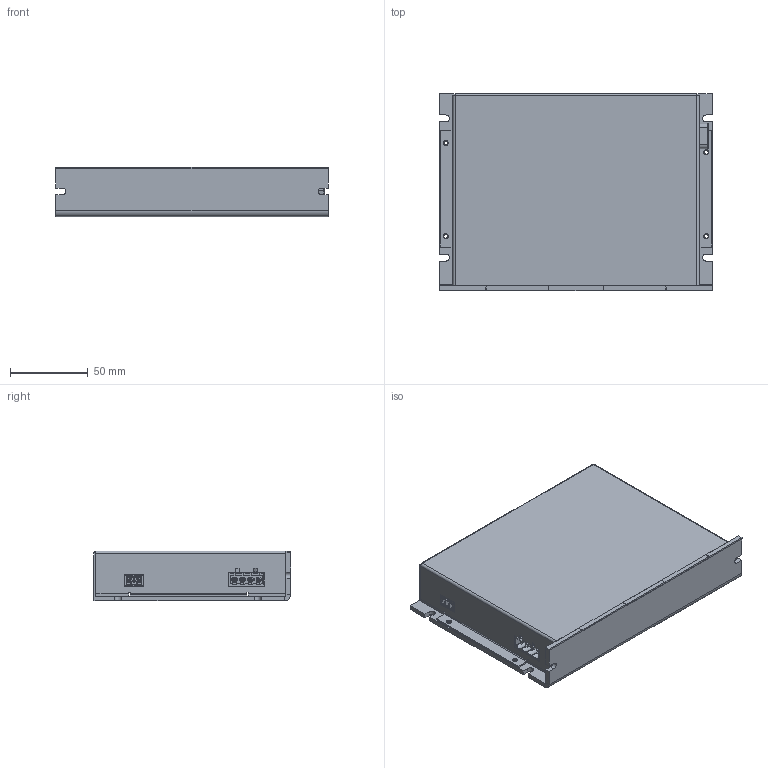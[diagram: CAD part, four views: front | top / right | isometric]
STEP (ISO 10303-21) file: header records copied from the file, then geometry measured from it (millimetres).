
FILE_DESCRIPTION(('FreeCAD Model'),'2;1');
FILE_NAME('Open CASCADE Shape Model','2022-02-10T09:57:39',('Author'),( ''),'Open CASCADE STEP processor 7.5','FreeCAD','Unknown');
FILE_SCHEMA(('AUTOMOTIVE_DESIGN { 1 0 10303 214 1 1 1 1 }'));
Length unit declared in the file: millimetre
Products named in the file (61): SFU1000_Geh__use_V0_3; Elektronik; mc_1.5-6-g-3.5; Leiterplatte; mc_1.5-6-g-3.006; mc_1.5-6-g-3.007; USB-Mini; wr-tbl 4Pol; wr-tbl 4Pol001; mc_1.5-3-g-3.5; mc_1.5-3-g-3.006; LED; glass housing; PCB; contact-pins; LED001; glass housing001; PCB001; contact-pins001; LED002; glass housing002; PCB002; contact-pins002; 330µf 100V Elko; 標準品ケースΦ18x15L SIDE CODE K16; 標準品座版Φ18 SIZE CODE K16; 標準品リード線Φ18 SIZE CODE K16; 標準品リード線Φ18 SIZE CODE K017; 330µf 100V Elko001; 標準品ケースΦ18x15L SIDE CODE K017; 標準品座版Φ18 SIZE CODE K017; 標準品リード線Φ18 SIZE CODE K018; 標準品リード線Φ18 SIZE CODE K019; 330µf 100V Elko002; 標準品ケースΦ18x15L SIDE CODE K018; 標準品座版Φ18 SIZE CODE K018; 標準品リード線Φ18 SIZE CODE K020; 標準品リード線Φ18 SIZE CODE K021; 330µf 100V Elko003; 標準品ケースΦ18x15L SIDE CODE K019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
Assembly tree (60 placements, depth 4):
  SFU1000_Geh__use_V0_3
    Elektronik
      mc_1.5-6-g-3.5
      Leiterplatte
      mc_1.5-6-g-3.006
      mc_1.5-6-g-3.007
      USB-Mini
      wr-tbl 4Pol
      wr-tbl 4Pol001
      mc_1.5-3-g-3.5
      mc_1.5-3-g-3.006
      LED
        glass housing
        PCB
        contact-pins
      LED001
        glass housing001
        PCB001
        contact-pins001
      LED002
        glass housing002
        PCB002
        contact-pins002
      330µf 100V Elko
        標準品ケースΦ18x15L SIDE CODE K16
        標準品座版Φ18 SIZE CODE K16
        標準品リード線Φ18 SIZE CODE K16
        標準品リード線Φ18 SIZE CODE K017
      330µf 100V Elko001
        標準品ケースΦ18x15L SIDE CODE K017
        標準品座版Φ18 SIZE CODE K017
        標準品リード線Φ18 SIZE CODE K018
        標準品リード線Φ18 SIZE CODE K019
      330µf 100V Elko002
        標準品ケースΦ18x15L SIDE CODE K018
        標準品座版Φ18 SIZE CODE K018
        標準品リード線Φ18 SIZE CODE K020
        標準品リード線Φ18 SIZE CODE K021
      330µf 100V Elko003
        標準品ケースΦ18x15L SIDE CODE K019
        標準品座版Φ18 SIZE CODE K019
        標準品リード線Φ18 SIZE CODE K022
        標準品リード線Φ18 SIZE CODE K023
      mc_1.5-7-g-3.5_p015
        mc_1.5-7-g-3.5_p14
      TO-247
      Sub-D THT
        N00402_BG
        R+B00067_BG
        R+B00067_BG001
        R+B00067_BG002
        R+B00067_BG003
        R+B00067_BG004
        R+B00066_BG
        R+B00066_BG001
        R+B00066_BG002
        R+B00066_BG003
        R+B00142_BG
        R+B00136_BG
    Befestigungsblech
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Bounding box: 175.5 x 126.9 x 32 mm (x, y, z)
Volume: 167760.5 mm3; surface area: 188908.2 mm2
Topology: 63 solids, 63 shells, 6282 faces, 18242 edges, 18243 vertices
Faces by surface type: plane 4489, cylinder 1466, cone 153, bspline 74, torus 67, extrusion 19, sphere 14
Full cylindrical faces by diameter (mm): 0.242 x2, 0.281 x2, 0.6 x9, 0.8 x2, 0.899 x2, 0.9 x18, 1.6 x27, 1.7 x9, 1.9 x8, 1.92 x9, 1.96 x27, 2 x8, 2.3 x9, 2.5 x14, 2.75 x8, 3.1 x2, 3.2 x4, 3.296 x2, 3.297 x1, 3.298 x3, 3.495 x2, 3.498 x1, 3.499 x1, 3.9 x2, 4.06 x2, 4.6 x2, 6 x10, 18 x8
Entity records: 503133 total; most frequent: CARTESIAN_POINT 160076, DIRECTION 62119, VECTOR 41084, LINE 41065, ORIENTED_EDGE 32546, PCURVE 32546, DEFINITIONAL_REPRESENTATION 32546, EDGE_CURVE 16273
